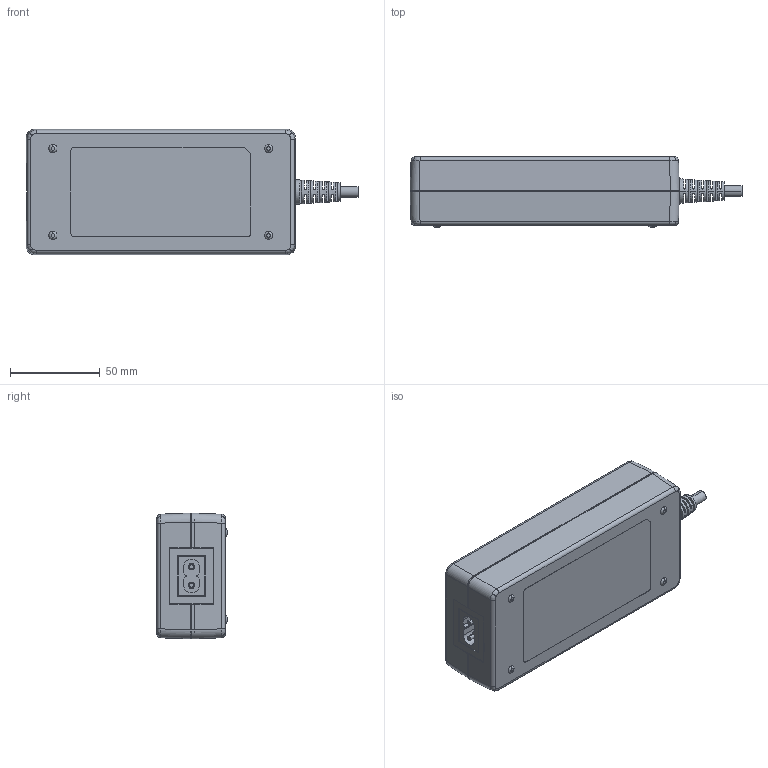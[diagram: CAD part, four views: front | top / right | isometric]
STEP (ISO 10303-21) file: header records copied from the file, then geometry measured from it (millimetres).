
FILE_DESCRIPTION (( 'STEP AP214' ), '1' );
FILE_NAME ('TR160MB²Õ¦X¥ó.STEP', '2022-07-29T02:01:17', ( '' ), ( '' ), 'SwSTEP 2.0', 'SolidWorks 2020', '' );
FILE_SCHEMA (( 'AUTOMOTIVE_DESIGN' ));
Length unit declared in the file: millimetre
Products named in the file (6): TR160M下蓋 G5669101A05 M-B462-00-M; LED燈罩(M-B145-03-M)G5646245130; SR030; TR160M上蓋 G5669100A05 M-B461-00-M; 插頭 C8; TR160MB組合件
Assembly tree (5 placements, depth 2):
  TR160MB組合件
    TR160M下蓋 G5669101A05 M-B462-00-M
    TR160M上蓋 G5669100A05 M-B461-00-M
    LED燈罩(M-B145-03-M)G5646245130
    SR030
    插頭 C8
Bounding box: 184.8 x 39 x 70 mm (x, y, z)
Volume: 77449.7 mm3; surface area: 79929.6 mm2
Topology: 5 solids, 5 shells, 470 faces, 1240 edges, 814 vertices
Faces by surface type: plane 302, cylinder 98, cone 38, bspline 20, torus 12
Entity records: 15416 total; most frequent: CARTESIAN_POINT 3600, ORIENTED_EDGE 2480, DIRECTION 2304, EDGE_CURVE 1240, VECTOR 844, LINE 844, VERTEX_POINT 814, AXIS2_PLACEMENT_3D 730
